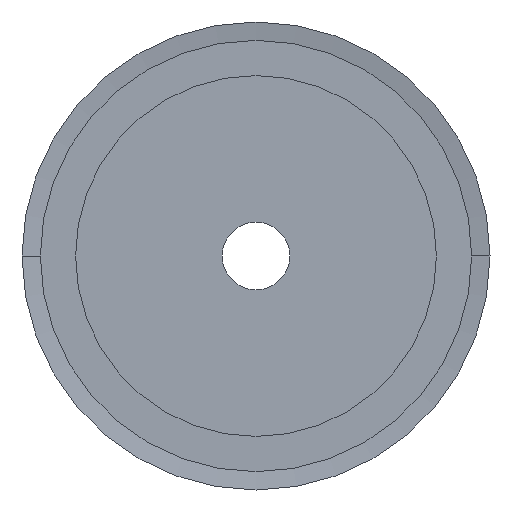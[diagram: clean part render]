
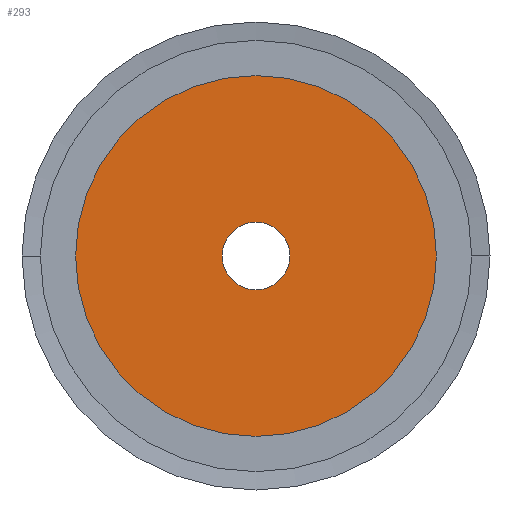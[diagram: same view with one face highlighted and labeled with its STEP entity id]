
A CAD part, left-side view. The second image highlights one B-rep face of the part: STEP entity #293.
In plain terms, the highlighted planar face has unit normal (-1, 0, 0).
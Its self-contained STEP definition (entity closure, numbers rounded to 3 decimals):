
#293 = ADVANCED_FACE( '', ( #737, #738 ), #739, .T. );
#737 = FACE_BOUND( '', #1182, .T. );
#738 = FACE_OUTER_BOUND( '', #1183, .T. );
#739 = PLANE( '', #1184 );
#1182 = EDGE_LOOP( '', ( #3091, #3092 ) );
#1183 = EDGE_LOOP( '', ( #3093, #3094 ) );
#1184 = AXIS2_PLACEMENT_3D( '', #3095, #3096, #3097 );
#3091 = ORIENTED_EDGE( '', *, *, #3720, .F. );
#3092 = ORIENTED_EDGE( '', *, *, #3113, .F. );
#3093 = ORIENTED_EDGE( '', *, *, #3101, .T. );
#3094 = ORIENTED_EDGE( '', *, *, #3725, .T. );
#3095 = CARTESIAN_POINT( '', ( 0., 19., 0. ) );
#3096 = DIRECTION( '', ( -1., 0., 0. ) );
#3097 = DIRECTION( '', ( 0., 1., 0. ) );
#3101 = EDGE_CURVE( '', #3727, #3731, #3733, .T. );
#3113 = EDGE_CURVE( '', #3755, #3751, #3757, .T. );
#3720 = EDGE_CURVE( '', #3751, #3755, #4764, .T. );
#3725 = EDGE_CURVE( '', #3731, #3727, #4769, .T. );
#3727 = VERTEX_POINT( '', #4771 );
#3731 = VERTEX_POINT( '', #4776 );
#3733 = CIRCLE( '', #4779, 32. );
#3751 = VERTEX_POINT( '', #4801 );
#3755 = VERTEX_POINT( '', #4806 );
#3757 = CIRCLE( '', #4809, 6. );
#4764 = CIRCLE( '', #6164, 6. );
#4769 = CIRCLE( '', #6169, 32. );
#4771 = CARTESIAN_POINT( '', ( 0., 32., 0. ) );
#4776 = CARTESIAN_POINT( '', ( 0., -32., 0. ) );
#4779 = AXIS2_PLACEMENT_3D( '', #6175, #6176, #6177 );
#4801 = CARTESIAN_POINT( '', ( 0., 6., 0. ) );
#4806 = CARTESIAN_POINT( '', ( 0., -6., 0. ) );
#4809 = AXIS2_PLACEMENT_3D( '', #6199, #6200, #6201 );
#6164 = AXIS2_PLACEMENT_3D( '', #7324, #7325, #7326 );
#6169 = AXIS2_PLACEMENT_3D( '', #7339, #7340, #7341 );
#6175 = CARTESIAN_POINT( '', ( 0., 0., 0. ) );
#6176 = DIRECTION( '', ( -1., 0., 0. ) );
#6177 = DIRECTION( '', ( 0., 1., 0. ) );
#6199 = CARTESIAN_POINT( '', ( 0., 0., 0. ) );
#6200 = DIRECTION( '', ( -1., 0., 0. ) );
#6201 = DIRECTION( '', ( 0., 1., 0. ) );
#7324 = CARTESIAN_POINT( '', ( 0., 0., 0. ) );
#7325 = DIRECTION( '', ( -1., 0., 0. ) );
#7326 = DIRECTION( '', ( 0., 1., 0. ) );
#7339 = CARTESIAN_POINT( '', ( 0., 0., 0. ) );
#7340 = DIRECTION( '', ( -1., 0., 0. ) );
#7341 = DIRECTION( '', ( 0., 1., 0. ) );
